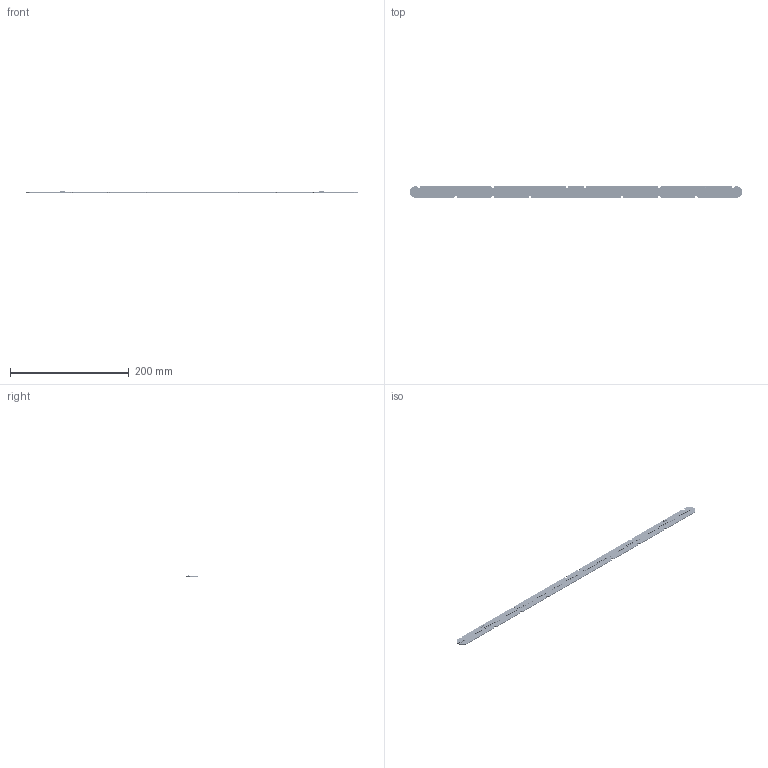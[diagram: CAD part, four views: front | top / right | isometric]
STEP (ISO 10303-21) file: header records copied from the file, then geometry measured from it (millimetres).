
FILE_DESCRIPTION(/* description */ (''),/* implementation_level */ '2;1');
FILE_NAME(/* name */ 'C:\Data\Vault\LE-TPD\9290 029 64700_Fortimo LED Strip 2ft MF UHE FC HV6\Fortimo LED Strip 2ft MF UHE FC HV6 2023-06-26.stp',/* time_stamp */ '2023-06-26T12:52:06+02:00',/* author */ ('600010516'),/* organization */ (''),/* preprocessor_version */ 'ST-DEVELOPER v18.1',/* originating_system */ 'Autodesk Inventor 2022',/* authorisation */ '');
FILE_SCHEMA (('AUTOMOTIVE_DESIGN { 1 0 10303 214 3 1 1 }'));
Products named in the file (1): Fortimo LED Strip 2ft MF UHE FC HV6 2023-06-26
Bounding box: 559.2 x 20 x 4.3 mm (x, y, z)
Volume: 18364.6 mm3; surface area: 26672.9 mm2
Topology: 1 solids, 481 shells, 17926 faces, 49486 edges, 32986 vertices
Faces by surface type: plane 12956, cylinder 4490, cone 480
Entity records: 587149 total; most frequent: CARTESIAN_POINT 100399, ORIENTED_EDGE 98972, DIRECTION 95318, EDGE_CURVE 49486, LINE 39508, VECTOR 39508, VERTEX_POINT 32986, AXIS2_PLACEMENT_3D 27905
